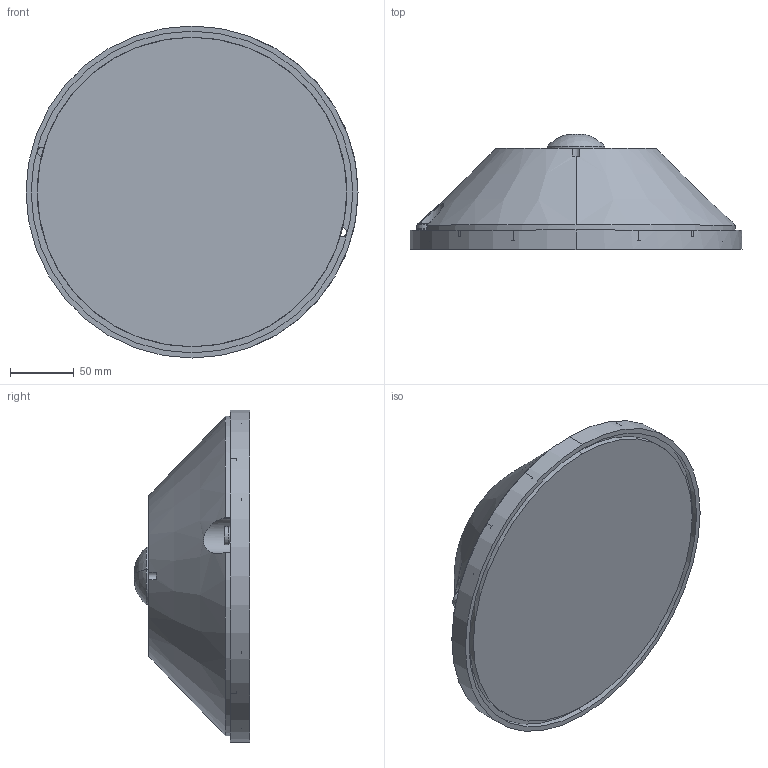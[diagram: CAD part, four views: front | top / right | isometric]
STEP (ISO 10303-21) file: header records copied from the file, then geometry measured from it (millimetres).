
FILE_DESCRIPTION (( 'STEP AP214' ), '1' );
FILE_NAME ('0019593 EZ-0300-260.STEP', '2022-02-28T14:59:45', ( '' ), ( '' ), 'SwSTEP 2.0', 'SolidWorks 2021', '' );
FILE_SCHEMA (( 'AUTOMOTIVE_DESIGN' ));
Length unit declared in the file: millimetre
Products named in the file (1): 0019593 EZ-0300-260
Bounding box: 260 x 90.17 x 260 mm (x, y, z)
Volume: 2698275.6 mm3; surface area: 152009.5 mm2
Topology: 3 solids, 3 shells, 173 faces, 427 edges, 247 vertices
Faces by surface type: cylinder 76, cone 48, plane 43, torus 4, sphere 2
Entity records: 7041 total; most frequent: CARTESIAN_POINT 1075, DIRECTION 900, ORIENTED_EDGE 782, EDGE_CURVE 391, AXIS2_PLACEMENT_3D 362, VERTEX_POINT 247, EDGE_LOOP 202, CIRCLE 188
